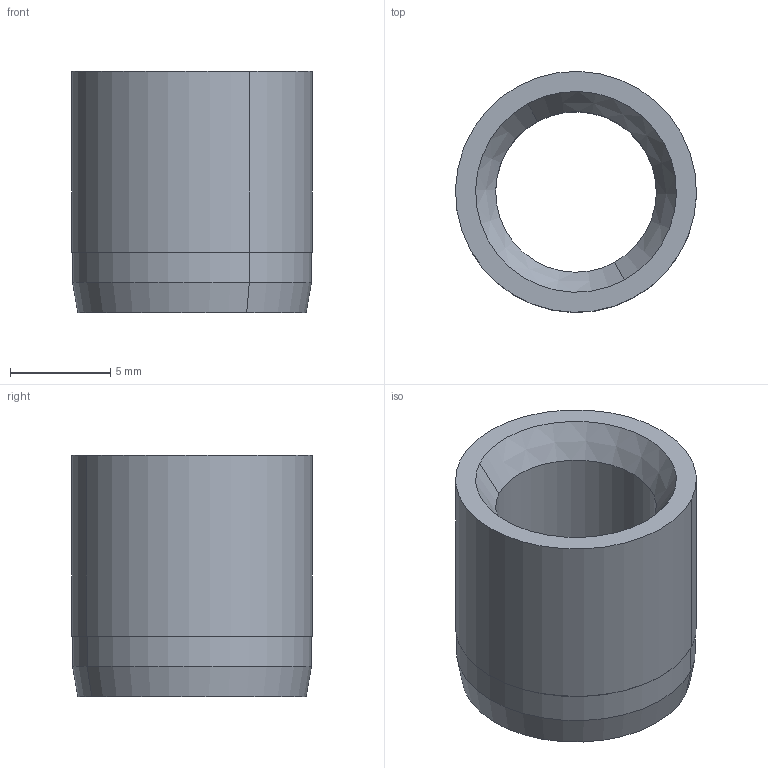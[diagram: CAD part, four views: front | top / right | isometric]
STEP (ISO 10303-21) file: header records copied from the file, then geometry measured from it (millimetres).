
FILE_DESCRIPTION(('CATIA V5 STEP Exchange'),'2;1');
FILE_NAME('G:\すぐ消す\NS-KB-8X12.stp','2016-02-18T08:45:56+00:00',('none'),('none'),'CATIA Version 5 Release 21 SP 4 (IN-10)','CATIA V5 STEP AP203','none');
FILE_SCHEMA(('CONFIG_CONTROL_DESIGN'));
Length unit declared in the file: millimetre
Products named in the file (1): NS-KB-8X12
Bounding box: 12 x 12 x 12 mm (x, y, z)
Volume: 718.4 mm3; surface area: 853.4 mm2
Topology: 1 solids, 1 shells, 13 faces, 26 edges, 16 vertices
Faces by surface type: cylinder 6, cone 4, plane 3
Entity records: 353 total; most frequent: CARTESIAN_POINT 52, ORIENTED_EDGE 52, DIRECTION 44, AXIS2_PLACEMENT_3D 26, EDGE_CURVE 26, CIRCLE 16, EDGE_LOOP 16, VERTEX_POINT 16
